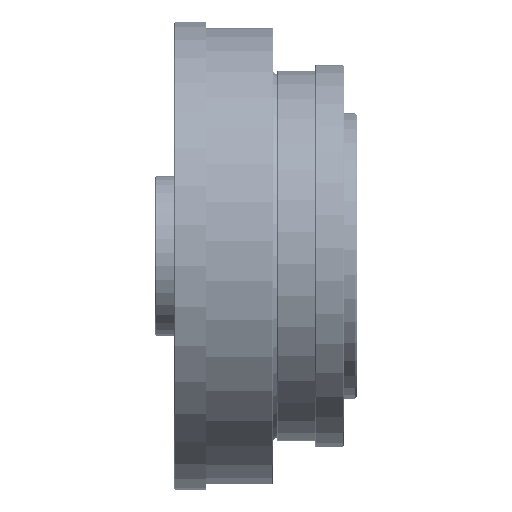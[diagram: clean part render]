
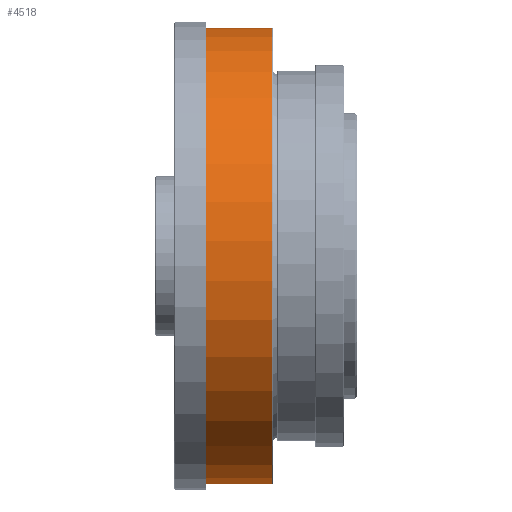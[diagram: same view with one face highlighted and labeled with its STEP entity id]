
A CAD part, front view. The second image highlights one B-rep face of the part: STEP entity #4518.
In plain terms, the highlighted cylindrical face has radius 120 mm (diameter 240 mm), a full revolution.
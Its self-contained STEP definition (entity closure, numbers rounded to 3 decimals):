
#4241=CYLINDRICAL_SURFACE('',#15781,120.);
#4518=ADVANCED_FACE('',(#5698,#5699),#4241,.T.);
#5698=FACE_BOUND('',#7167,.T.);
#5699=FACE_BOUND('',#7168,.T.);
#7167=EDGE_LOOP('',(#8892));
#7168=EDGE_LOOP('',(#8893));
#8892=ORIENTED_EDGE('',*,*,#13376,.F.);
#8893=ORIENTED_EDGE('',*,*,#13375,.T.);
#12046=VERTEX_POINT('',#21119);
#12047=VERTEX_POINT('',#21122);
#13375=EDGE_CURVE('',#12046,#12046,#14955,.T.);
#13376=EDGE_CURVE('',#12047,#12047,#14956,.T.);
#14955=CIRCLE('',#15778,120.);
#14956=CIRCLE('',#15780,120.);
#15778=AXIS2_PLACEMENT_3D('',#21118,#17499,#17500);
#15780=AXIS2_PLACEMENT_3D('',#21121,#17503,#17504);
#15781=AXIS2_PLACEMENT_3D('',#21123,#17505,#17506);
#17499=DIRECTION('',(1.,0.,0.));
#17500=DIRECTION('',(0.,0.,-1.));
#17503=DIRECTION('',(1.,0.,0.));
#17504=DIRECTION('',(0.,0.,-1.));
#17505=DIRECTION('',(1.,0.,0.));
#17506=DIRECTION('',(0.,0.,-1.));
#21118=CARTESIAN_POINT('',(-40.7,0.,0.));
#21119=CARTESIAN_POINT('',(-40.7,0.,-120.));
#21121=CARTESIAN_POINT('',(-1.5,0.,0.));
#21122=CARTESIAN_POINT('',(-1.5,0.,-120.));
#21123=CARTESIAN_POINT('',(-71.,0.,0.));
